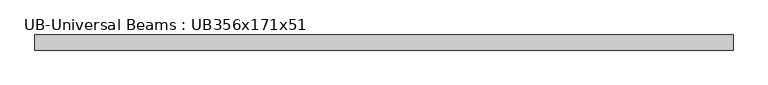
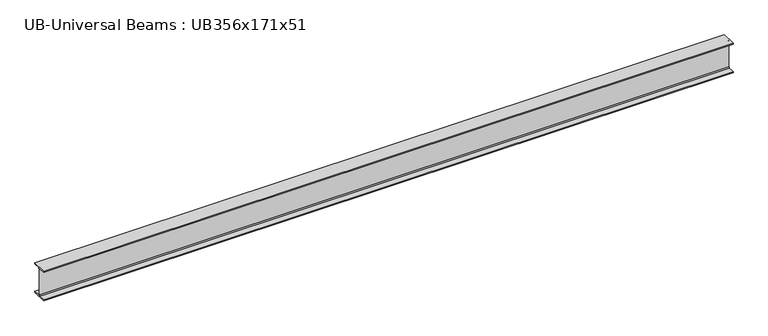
"""IFC4 building model written with IfcOpenShell, lengths in millimetres: beam geometry, UB-Universal Beams : UB356x171x51."""

from ifc_helpers import new_model, si_unit, point, frame, frame_2d, origin, place, context, project, spatial, polyline, circle_curve, trimmed, segment, composite_curve, outline, extrude, source, transform, mapped, element, save


def ub_universal_beams_ub356x171x51_10b3c54f(model_context):
    return source(origin(), model_context, "Body", "SweptSolid", [
        extrude(outline(composite_curve([segment(polyline([(85.75, -166.0), (85.75, -177.5), (-85.75, -177.5), (-85.75, -166.0), (-13.9, -166.0)]), True, "CONTINUOUS"), segment(trimmed(circle_curve(frame_2d((-13.9, -155.8)), 10.2), [point((-13.9, -166.0))], [point((-3.7, -155.8))], True, "CARTESIAN"), True, "CONTINUOUS"), segment(polyline([(-3.7, -155.8), (-3.7, 155.8)]), True, "CONTINUOUS"), segment(trimmed(circle_curve(frame_2d((-13.9, 155.8)), 10.2), [point((-3.7, 155.8))], [point((-13.9, 166.0))], True, "CARTESIAN"), True, "CONTINUOUS"), segment(polyline([(-13.9, 166.0), (-85.75, 166.0), (-85.75, 177.5), (85.75, 177.5), (85.75, 166.0), (13.9, 166.0)]), True, "CONTINUOUS"), segment(trimmed(circle_curve(frame_2d((13.9, 155.8)), 10.2), [point((13.9, 166.0))], [point((3.7, 155.8))], True, "CARTESIAN"), True, "CONTINUOUS"), segment(polyline([(3.7, 155.8), (3.7, -155.8)]), True, "CONTINUOUS"), segment(trimmed(circle_curve(frame_2d((13.9, -155.8)), 10.2), [point((3.7, -155.8))], [point((13.9, -166.0))], True, "CARTESIAN"), True, "CONTINUOUS"), segment(polyline([(13.9, -166.0), (85.75, -166.0)]), True, "CONTINUOUS")], self_intersect=False)), frame((-3952.8, 0.0, 0.0), z_axis=(1.0, 0.0, 0.0), x_axis=(0.0, 1.0, 0.0)), (0.0, 0.0, 1.0), 7905.6),
    ])


if __name__ == "__main__":
    model = new_model("IFC4")
    model_context = context("Model", 3, world=origin())
    ifc_project = project(units=[si_unit("LENGTHUNIT", "METRE", prefix="MILLI")], contexts=[model_context])
    site = spatial("IfcSite", under=ifc_project)
    building = spatial("IfcBuilding", under=site)
    placement = place(None, origin())
    ub_universal_beams_ub356x171x51_shape = ub_universal_beams_ub356x171x51_10b3c54f(model_context)
    element("IfcBeam", 1, ObjectType="UB-Universal Beams : UB356x171x51", at=placement, inside=building, context=model_context, shape_type="MappedRepresentation", body=[
        mapped(ub_universal_beams_ub356x171x51_shape, transform((0.0, 0.0, 0.0), x_axis=(1.0, 0.0, 0.0), y_axis=(0.0, 1.0, 0.0), z_axis=(0.0, 0.0, 1.0))),
    ])
    save(model, "model.ifc")
